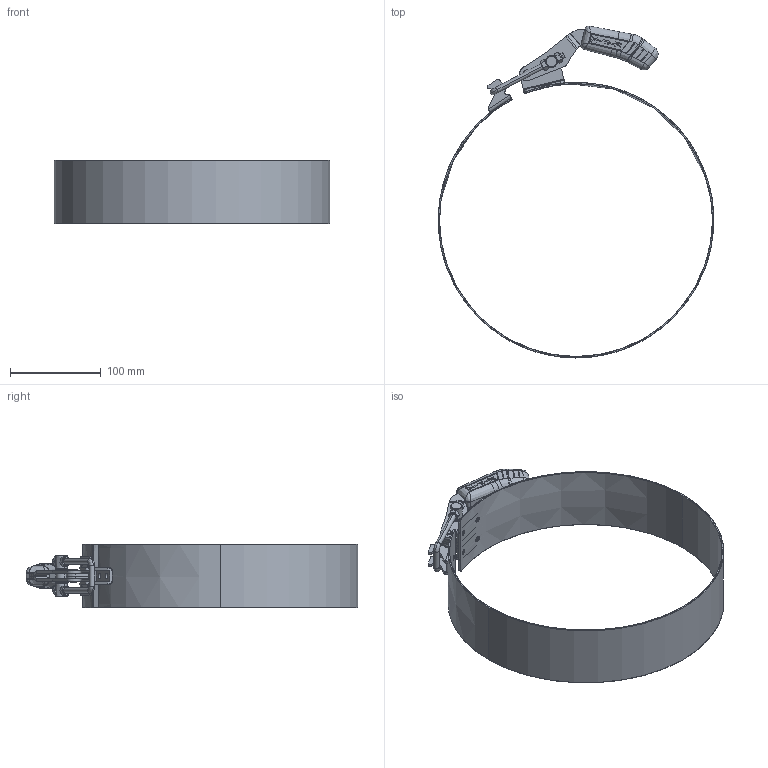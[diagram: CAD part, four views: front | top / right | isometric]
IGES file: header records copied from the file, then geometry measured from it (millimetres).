
Start section: SolidWorks IGES file using analytic representation for surfaces
Global section: file name: P:\SITE KIFIX\KF-843 CT300\KF-843 CT300.IGS; native system: SolidWorks 2019; preprocessor: SolidWorks 2019; author: adriano; date: 200730.134231; units: millimetre
Bounding box: 303 x 364.9 x 70 mm (x, y, z)
Surface area: 175518.5 mm2 (no closed solid volume)
Topology: 0 solids, 0 shells, 656 faces, 7892 edges, 7886 vertices
Faces by surface type: bspline 405, revolution 251
